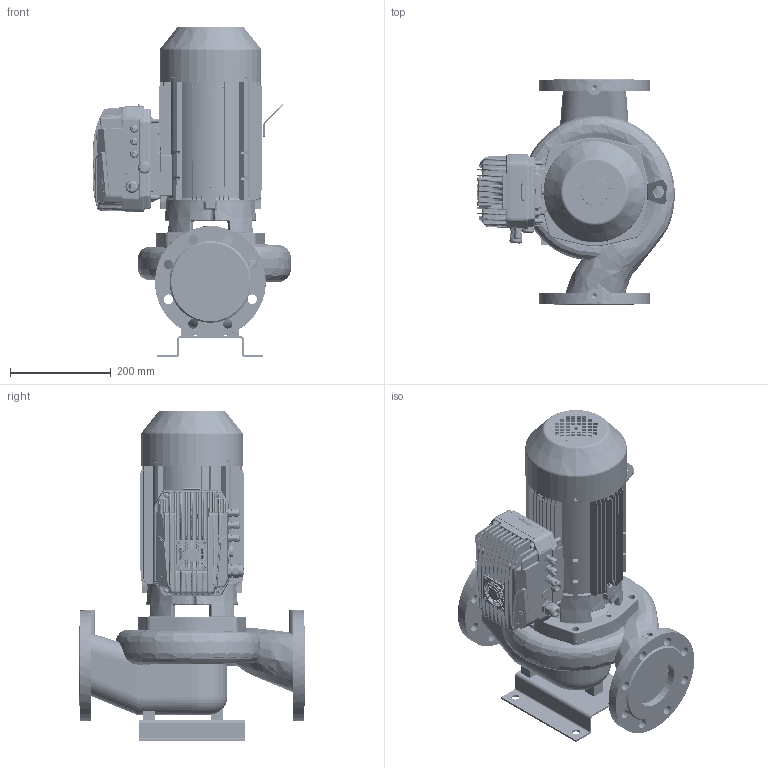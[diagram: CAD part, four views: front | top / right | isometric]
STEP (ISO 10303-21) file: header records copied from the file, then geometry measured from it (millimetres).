
FILE_DESCRIPTION(('STEP AP214'),'1');
FILE_NAME('export.stp','2022-08-29T11:47:30',(' '),(' '),'Spatial InterOp 3D',' ',' ');
FILE_SCHEMA(('AUTOMOTIVE_DESIGN { 1 0 10303 214 1 1 1 1 }'));
Length unit declared in the file: millimetre
Products named in the file (46): V_AdapMida205_407; 210588; DIN_7985-M5X8; W_AL11024MDKP100; V_PPAL1102; V_JALKA35973; V_TLL65AB80A1102; 160027; 160005; V_MKP100-2_F19; 160141; 160137; 160138; 160139; 160140; Koura_Ale_M5; Plug_Blind_M20; Sealing_Plug_M20; DIN_7985-M5X12; 160060___; 160059___; 160136; 160134; MIDA_180deg; BASE_MIDA_NASTEC_89; 3005020100_AF0_157; PRT0001; PRT0002; PRT0003; PRT0005; PRT0006; PRT0007; V4-25--_-_U7687_PZ_AF0_5; V4-25--_-_U7687_PZ_AF1_5; V4-25--_-_U7687_PZ_AF2_5; V4-25--_-_U7687_PZ_AF3_5; V5-30--_-_U7687_PZ_AF0_5; V5-30--_-_U7687_PZ_AF1_5; V5-30--_-_U7687_PZ_AF2_5; V5-30--_-_U7687_PZ_5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
Assembly tree (50 placements, depth 4):
  W_AL11024MDKP100
    V_AdapMida205_407
      210588
      DIN_7985-M5X8  x2
    V_PPAL1102
    V_JALKA35973
    V_TLL65AB80A1102
    V_MKP100-2_F19
      160027
        160005
      160141
        160137
        160138
        160139
        160140
        Koura_Ale_M5
        Plug_Blind_M20
        Sealing_Plug_M20
        DIN_7985-M5X8
        DIN_7985-M5X12  x4
      160060___
      160059___
      160136
      160134  x2
    Mida205
      MIDA_180deg
        BASE_MIDA_NASTEC_89
        3005020100_AF0_157
        PRT0001
        PRT0002
        PRT0003
        PRT0005
        PRT0006
        PRT0007
        V4-25--_-_U7687_PZ_AF0_5
        V4-25--_-_U7687_PZ_AF1_5
        V4-25--_-_U7687_PZ_AF2_5
        V4-25--_-_U7687_PZ_AF3_5
        V5-30--_-_U7687_PZ_AF0_5
        V5-30--_-_U7687_PZ_AF1_5
        V5-30--_-_U7687_PZ_AF2_5
        V5-30--_-_U7687_PZ_5
        2001300200_32
        TASTIERA_MIDA_2_44
        ETICHETTA_MIDA_9
        TAPPO_PRESSACAVO_M20_5
Bounding box: 393.09 x 450 x 657.07 mm (x, y, z)
Volume: 3596615.9 mm3; surface area: 2883954.4 mm2
Topology: 43 solids, 45 shells, 6480 faces, 16956 edges, 10548 vertices
Faces by surface type: plane 2361, cylinder 2073, bspline 1350, cone 420, torus 253, sphere 15, offset 8
Entity records: 331308 total; most frequent: CARTESIAN_POINT 152971, ORIENTED_EDGE 33118, DIRECTION 24301, EDGE_CURVE 16565, VERTEX_POINT 10373, AXIS2_PLACEMENT_3D 8829, EDGE_LOOP 6930, LINE 6643
